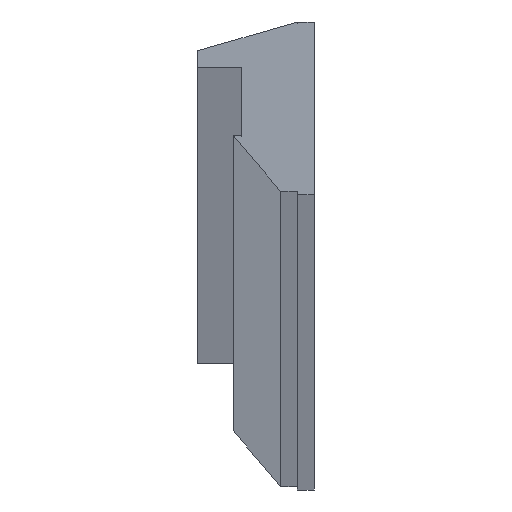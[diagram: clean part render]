
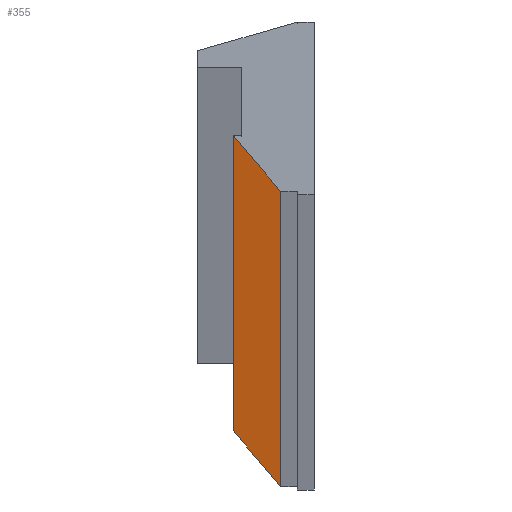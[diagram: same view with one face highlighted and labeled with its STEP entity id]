
A CAD part, top view. The second image highlights one B-rep face of the part: STEP entity #355.
In plain terms, the highlighted planar face has unit normal (-0.762, -0.647, 0).
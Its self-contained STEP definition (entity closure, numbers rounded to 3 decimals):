
#299=CARTESIAN_POINT('',(-2.,-7.3,10000.));
#300=VERTEX_POINT('',#299);
#307=CARTESIAN_POINT('',(-2.,-7.3,0.0));
#308=VERTEX_POINT('',#307);
#309=CARTESIAN_POINT('',(-2.,-7.3,0.0));
#310=DIRECTION('',(0.0,0.0,1.0));
#311=VECTOR('',#310,10000.);
#312=LINE('',#309,#311);
#313=EDGE_CURVE('',#308,#300,#312,.T.);
#325=CARTESIAN_POINT('',(-2.,-7.3,0.0));
#326=DIRECTION('',(-0.763,-0.647,0.0));
#327=DIRECTION('',(0.0,0.0,1.0));
#328=AXIS2_PLACEMENT_3D('',#325,#326,#327);
#329=PLANE('',#328);
#330=CARTESIAN_POINT('',(-4.8,-4.,10000.));
#331=VERTEX_POINT('',#330);
#332=CARTESIAN_POINT('',(-2.,-7.3,10000.));
#333=DIRECTION('',(-0.647,0.763,0.0));
#334=VECTOR('',#333,4.328);
#335=LINE('',#332,#334);
#336=EDGE_CURVE('',#300,#331,#335,.T.);
#337=ORIENTED_EDGE('',*,*,#336,.T.);
#338=CARTESIAN_POINT('',(-4.8,-4.,0.0));
#339=VERTEX_POINT('',#338);
#340=CARTESIAN_POINT('',(-4.8,-4.,0.0));
#341=DIRECTION('',(0.0,0.0,1.0));
#342=VECTOR('',#341,10000.);
#343=LINE('',#340,#342);
#344=EDGE_CURVE('',#339,#331,#343,.T.);
#345=ORIENTED_EDGE('',*,*,#344,.F.);
#346=CARTESIAN_POINT('',(-2.,-7.3,0.0));
#347=DIRECTION('',(-0.647,0.763,0.0));
#348=VECTOR('',#347,4.328);
#349=LINE('',#346,#348);
#350=EDGE_CURVE('',#308,#339,#349,.T.);
#351=ORIENTED_EDGE('',*,*,#350,.F.);
#352=ORIENTED_EDGE('',*,*,#313,.T.);
#353=EDGE_LOOP('',(#337,#345,#351,#352));
#354=FACE_OUTER_BOUND('',#353,.T.);
#355=ADVANCED_FACE('',(#354),#329,.T.);
